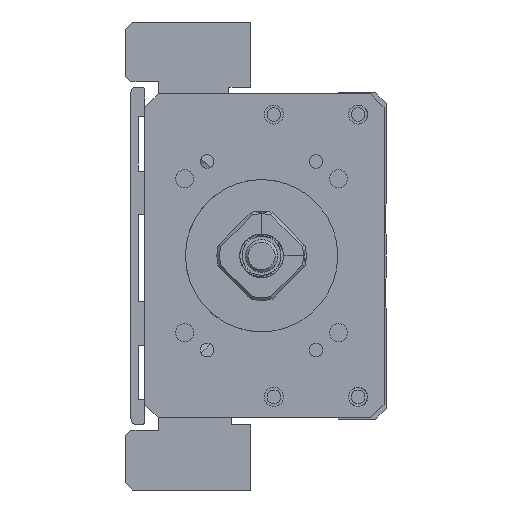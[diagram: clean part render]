
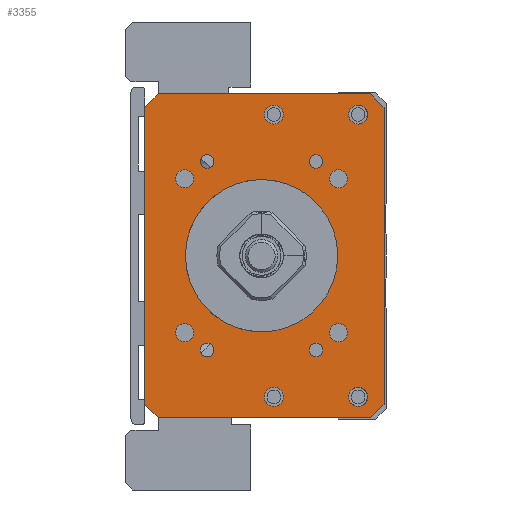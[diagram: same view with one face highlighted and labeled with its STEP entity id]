
A CAD part, left-side view. The second image highlights one B-rep face of the part: STEP entity #3355.
In plain terms, the highlighted planar face has unit normal (-1, 0, 0).
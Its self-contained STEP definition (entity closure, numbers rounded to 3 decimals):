
#385=LINE('',#16847,#1332);
#387=LINE('',#16871,#1334);
#388=LINE('',#16873,#1335);
#389=LINE('',#16875,#1336);
#390=LINE('',#16877,#1337);
#391=LINE('',#16879,#1338);
#392=LINE('',#16881,#1339);
#393=LINE('',#16883,#1340);
#1332=VECTOR('',#13473,1.);
#1334=VECTOR('',#13497,1.);
#1335=VECTOR('',#13498,1.);
#1336=VECTOR('',#13499,1.);
#1337=VECTOR('',#13500,1.);
#1338=VECTOR('',#13501,1.);
#1339=VECTOR('',#13502,1.);
#1340=VECTOR('',#13503,1.);
#2763=PLANE('',#12061);
#3355=ADVANCED_FACE('',(#4252,#4253,#4254,#4255,#4256,#4257,#4258,#4259,
#4260,#4261,#4262,#4263,#4264,#4265),#2763,.F.);
#4252=FACE_BOUND('',#4834,.T.);
#4253=FACE_BOUND('',#4835,.T.);
#4254=FACE_BOUND('',#4836,.T.);
#4255=FACE_BOUND('',#4837,.T.);
#4256=FACE_BOUND('',#4838,.T.);
#4257=FACE_BOUND('',#4839,.T.);
#4258=FACE_BOUND('',#4840,.T.);
#4259=FACE_BOUND('',#4841,.T.);
#4260=FACE_BOUND('',#4842,.T.);
#4261=FACE_BOUND('',#4843,.T.);
#4262=FACE_BOUND('',#4844,.T.);
#4263=FACE_BOUND('',#4845,.T.);
#4264=FACE_BOUND('',#4846,.T.);
#4265=FACE_BOUND('',#4847,.T.);
#4834=EDGE_LOOP('',(#6084));
#4835=EDGE_LOOP('',(#6085));
#4836=EDGE_LOOP('',(#6086));
#4837=EDGE_LOOP('',(#6087));
#4838=EDGE_LOOP('',(#6088));
#4839=EDGE_LOOP('',(#6089));
#4840=EDGE_LOOP('',(#6090));
#4841=EDGE_LOOP('',(#6091));
#4842=EDGE_LOOP('',(#6092));
#4843=EDGE_LOOP('',(#6093,#6094,#6095,#6096,#6097,#6098,#6099,#6100));
#4844=EDGE_LOOP('',(#6101));
#4845=EDGE_LOOP('',(#6102));
#4846=EDGE_LOOP('',(#6103));
#4847=EDGE_LOOP('',(#6104));
#6084=ORIENTED_EDGE('',*,*,#10124,.F.);
#6085=ORIENTED_EDGE('',*,*,#10125,.F.);
#6086=ORIENTED_EDGE('',*,*,#10126,.F.);
#6087=ORIENTED_EDGE('',*,*,#10127,.F.);
#6088=ORIENTED_EDGE('',*,*,#10128,.F.);
#6089=ORIENTED_EDGE('',*,*,#10129,.T.);
#6090=ORIENTED_EDGE('',*,*,#10130,.F.);
#6091=ORIENTED_EDGE('',*,*,#10131,.F.);
#6092=ORIENTED_EDGE('',*,*,#10132,.F.);
#6093=ORIENTED_EDGE('',*,*,#10121,.T.);
#6094=ORIENTED_EDGE('',*,*,#10133,.T.);
#6095=ORIENTED_EDGE('',*,*,#10134,.F.);
#6096=ORIENTED_EDGE('',*,*,#10135,.T.);
#6097=ORIENTED_EDGE('',*,*,#10136,.F.);
#6098=ORIENTED_EDGE('',*,*,#10137,.T.);
#6099=ORIENTED_EDGE('',*,*,#10138,.T.);
#6100=ORIENTED_EDGE('',*,*,#10139,.T.);
#6101=ORIENTED_EDGE('',*,*,#10140,.F.);
#6102=ORIENTED_EDGE('',*,*,#10141,.F.);
#6103=ORIENTED_EDGE('',*,*,#10142,.F.);
#6104=ORIENTED_EDGE('',*,*,#10101,.F.);
#8947=VERTEX_POINT('',#16786);
#8967=VERTEX_POINT('',#16846);
#8968=VERTEX_POINT('',#16848);
#8970=VERTEX_POINT('',#16854);
#8971=VERTEX_POINT('',#16856);
#8972=VERTEX_POINT('',#16858);
#8973=VERTEX_POINT('',#16860);
#8974=VERTEX_POINT('',#16862);
#8975=VERTEX_POINT('',#16864);
#8976=VERTEX_POINT('',#16866);
#8977=VERTEX_POINT('',#16868);
#8978=VERTEX_POINT('',#16870);
#8979=VERTEX_POINT('',#16872);
#8980=VERTEX_POINT('',#16874);
#8981=VERTEX_POINT('',#16876);
#8982=VERTEX_POINT('',#16878);
#8983=VERTEX_POINT('',#16880);
#8984=VERTEX_POINT('',#16882);
#8985=VERTEX_POINT('',#16885);
#8986=VERTEX_POINT('',#16887);
#8987=VERTEX_POINT('',#16889);
#10101=EDGE_CURVE('',#8947,#8947,#11533,.T.);
#10121=EDGE_CURVE('',#8968,#8967,#385,.T.);
#10124=EDGE_CURVE('',#8970,#8970,#11542,.T.);
#10125=EDGE_CURVE('',#8971,#8971,#11543,.T.);
#10126=EDGE_CURVE('',#8972,#8972,#11544,.T.);
#10127=EDGE_CURVE('',#8973,#8973,#11545,.T.);
#10128=EDGE_CURVE('',#8974,#8974,#11546,.T.);
#10129=EDGE_CURVE('',#8975,#8975,#11547,.T.);
#10130=EDGE_CURVE('',#8976,#8976,#11548,.T.);
#10131=EDGE_CURVE('',#8977,#8977,#11549,.T.);
#10132=EDGE_CURVE('',#8978,#8978,#11550,.T.);
#10133=EDGE_CURVE('',#8967,#8979,#387,.T.);
#10134=EDGE_CURVE('',#8980,#8979,#388,.T.);
#10135=EDGE_CURVE('',#8980,#8981,#389,.T.);
#10136=EDGE_CURVE('',#8982,#8981,#390,.T.);
#10137=EDGE_CURVE('',#8982,#8983,#391,.T.);
#10138=EDGE_CURVE('',#8983,#8984,#392,.T.);
#10139=EDGE_CURVE('',#8984,#8968,#393,.T.);
#10140=EDGE_CURVE('',#8985,#8985,#11551,.T.);
#10141=EDGE_CURVE('',#8986,#8986,#11552,.T.);
#10142=EDGE_CURVE('',#8987,#8987,#11553,.T.);
#11533=CIRCLE('',#12038,14.);
#11542=CIRCLE('',#12049,1.65);
#11543=CIRCLE('',#12050,1.65);
#11544=CIRCLE('',#12051,1.65);
#11545=CIRCLE('',#12052,1.65);
#11546=CIRCLE('',#12053,1.25);
#11547=CIRCLE('',#12054,1.75);
#11548=CIRCLE('',#12055,1.25);
#11549=CIRCLE('',#12056,1.75);
#11550=CIRCLE('',#12057,1.25);
#11551=CIRCLE('',#12058,1.75);
#11552=CIRCLE('',#12059,1.75);
#11553=CIRCLE('',#12060,1.25);
#12038=AXIS2_PLACEMENT_3D('',#16785,#13447,#13448);
#12049=AXIS2_PLACEMENT_3D('',#16853,#13479,#13480);
#12050=AXIS2_PLACEMENT_3D('',#16855,#13481,#13482);
#12051=AXIS2_PLACEMENT_3D('',#16857,#13483,#13484);
#12052=AXIS2_PLACEMENT_3D('',#16859,#13485,#13486);
#12053=AXIS2_PLACEMENT_3D('',#16861,#13487,#13488);
#12054=AXIS2_PLACEMENT_3D('',#16863,#13489,#13490);
#12055=AXIS2_PLACEMENT_3D('',#16865,#13491,#13492);
#12056=AXIS2_PLACEMENT_3D('',#16867,#13493,#13494);
#12057=AXIS2_PLACEMENT_3D('',#16869,#13495,#13496);
#12058=AXIS2_PLACEMENT_3D('',#16884,#13504,#13505);
#12059=AXIS2_PLACEMENT_3D('',#16886,#13506,#13507);
#12060=AXIS2_PLACEMENT_3D('',#16888,#13508,#13509);
#12061=AXIS2_PLACEMENT_3D('',#16890,#13510,#13511);
#13447=DIRECTION('',(-1.,0.,0.));
#13448=DIRECTION('',(0.,1.,0.));
#13473=DIRECTION('',(0.,0.,-1.));
#13479=DIRECTION('',(-1.,0.,0.));
#13480=DIRECTION('',(0.,0.,1.));
#13481=DIRECTION('',(-1.,0.,0.));
#13482=DIRECTION('',(0.,0.,1.));
#13483=DIRECTION('',(-1.,0.,0.));
#13484=DIRECTION('',(0.,0.,1.));
#13485=DIRECTION('',(-1.,0.,0.));
#13486=DIRECTION('',(0.,0.,1.));
#13487=DIRECTION('',(-1.,0.,0.));
#13488=DIRECTION('',(0.,1.,0.));
#13489=DIRECTION('',(1.,0.,0.));
#13490=DIRECTION('',(0.,0.,1.));
#13491=DIRECTION('',(-1.,0.,0.));
#13492=DIRECTION('',(0.,1.,0.));
#13493=DIRECTION('',(-1.,0.,0.));
#13494=DIRECTION('',(0.,0.,1.));
#13495=DIRECTION('',(-1.,0.,0.));
#13496=DIRECTION('',(0.,1.,0.));
#13497=DIRECTION('',(0.,-0.707,-0.707));
#13498=DIRECTION('',(0.,1.,0.));
#13499=DIRECTION('',(0.,-0.707,0.707));
#13500=DIRECTION('',(0.,0.,-1.));
#13501=DIRECTION('',(0.,0.707,0.707));
#13502=DIRECTION('',(0.,1.,0.));
#13503=DIRECTION('',(0.,0.707,-0.707));
#13504=DIRECTION('',(-1.,0.,0.));
#13505=DIRECTION('',(0.,0.,1.));
#13506=DIRECTION('',(-1.,0.,0.));
#13507=DIRECTION('',(0.,0.,1.));
#13508=DIRECTION('',(-1.,0.,0.));
#13509=DIRECTION('',(0.,1.,0.));
#13510=DIRECTION('',(1.,0.,0.));
#13511=DIRECTION('',(0.,1.,0.));
#16785=CARTESIAN_POINT('',(-211.,0.,-300.));
#16786=CARTESIAN_POINT('',(-211.,14.,-300.));
#16846=CARTESIAN_POINT('',(-211.,21.499,-327.25));
#16847=CARTESIAN_POINT('',(-211.,21.499,-270.25));
#16848=CARTESIAN_POINT('',(-211.,21.499,-272.75));
#16853=CARTESIAN_POINT('',(-211.,14.142,-285.858));
#16854=CARTESIAN_POINT('',(-211.,14.142,-284.208));
#16855=CARTESIAN_POINT('',(-211.,-14.142,-285.858));
#16856=CARTESIAN_POINT('',(-211.,-14.142,-284.208));
#16857=CARTESIAN_POINT('',(-211.,14.142,-314.142));
#16858=CARTESIAN_POINT('',(-211.,14.142,-312.492));
#16859=CARTESIAN_POINT('',(-211.,-14.142,-314.142));
#16860=CARTESIAN_POINT('',(-211.,-14.142,-312.492));
#16861=CARTESIAN_POINT('',(-211.,-10.,-317.321));
#16862=CARTESIAN_POINT('',(-211.,-8.75,-317.321));
#16863=CARTESIAN_POINT('',(-211.,-2.25,-325.936));
#16864=CARTESIAN_POINT('',(-211.,-2.25,-324.186));
#16865=CARTESIAN_POINT('',(-211.,10.,-282.679));
#16866=CARTESIAN_POINT('',(-211.,11.25,-282.679));
#16867=CARTESIAN_POINT('',(-211.,-2.25,-274.064));
#16868=CARTESIAN_POINT('',(-211.,-2.25,-272.314));
#16869=CARTESIAN_POINT('',(-211.,10.,-317.321));
#16870=CARTESIAN_POINT('',(-211.,11.25,-317.321));
#16871=CARTESIAN_POINT('',(-211.,18.999,-329.75));
#16872=CARTESIAN_POINT('',(-211.,18.999,-329.75));
#16873=CARTESIAN_POINT('',(-211.,-22.501,-329.75));
#16874=CARTESIAN_POINT('',(-211.,-20.001,-329.75));
#16875=CARTESIAN_POINT('',(-211.,-22.501,-327.25));
#16876=CARTESIAN_POINT('',(-211.,-22.501,-327.25));
#16877=CARTESIAN_POINT('',(-211.,-22.501,-270.25));
#16878=CARTESIAN_POINT('',(-211.,-22.501,-272.75));
#16879=CARTESIAN_POINT('',(-211.,-22.501,-272.75));
#16880=CARTESIAN_POINT('',(-211.,-20.001,-270.25));
#16881=CARTESIAN_POINT('',(-211.,-22.501,-270.25));
#16882=CARTESIAN_POINT('',(-211.,18.999,-270.25));
#16883=CARTESIAN_POINT('',(-211.,18.999,-270.25));
#16884=CARTESIAN_POINT('',(-211.,-17.75,-274.064));
#16885=CARTESIAN_POINT('',(-211.,-17.75,-272.314));
#16886=CARTESIAN_POINT('',(-211.,-17.75,-325.936));
#16887=CARTESIAN_POINT('',(-211.,-17.75,-324.186));
#16888=CARTESIAN_POINT('',(-211.,-10.,-282.679));
#16889=CARTESIAN_POINT('',(-211.,-8.75,-282.679));
#16890=CARTESIAN_POINT('',(-211.,-22.501,-270.25));
